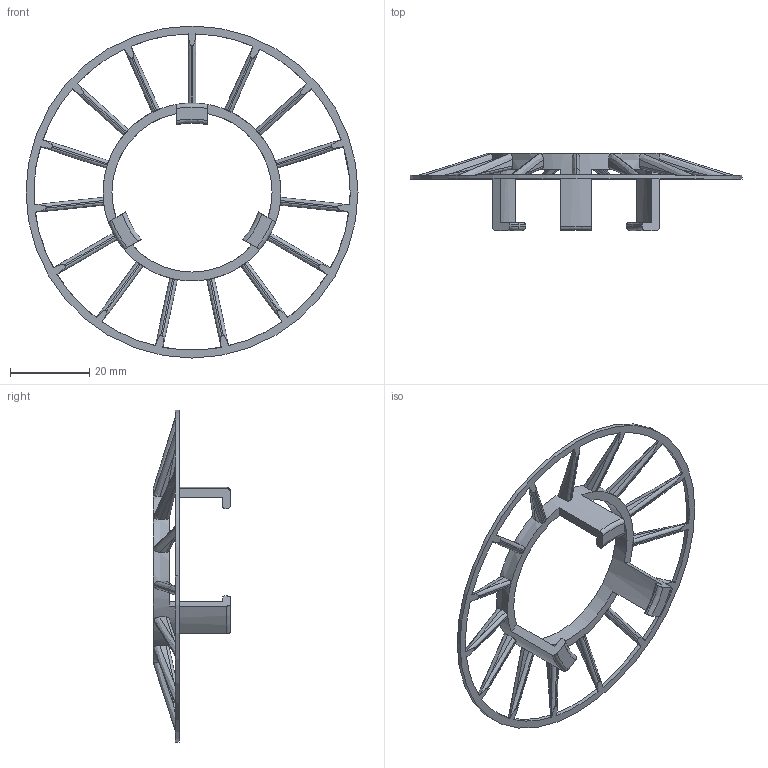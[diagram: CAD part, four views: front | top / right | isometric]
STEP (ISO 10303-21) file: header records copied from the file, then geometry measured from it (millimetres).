
FILE_DESCRIPTION (( 'STEP AP203' ), '1' );
FILE_NAME ('T200网罩（下）.STEP', '2022-04-03T13:08:31', ( '' ), ( '' ), 'SwSTEP 2.0', 'SolidWorks 2020', '' );
FILE_SCHEMA (( 'CONFIG_CONTROL_DESIGN' ));
Length unit declared in the file: millimetre
Products named in the file (1): T200厙欶ㄗ狟ㄘ
Bounding box: 84 x 19.5 x 84 mm (x, y, z)
Volume: 3868.6 mm3; surface area: 6250.5 mm2
Topology: 1 solids, 1 shells, 167 faces, 502 edges, 306 vertices
Faces by surface type: bspline 60, plane 48, cylinder 35, cone 15, torus 9
Entity records: 8458 total; most frequent: CARTESIAN_POINT 4629, ORIENTED_EDGE 996, DIRECTION 535, EDGE_CURVE 498, VERTEX_POINT 304, B_SPLINE_CURVE_WITH_KNOTS 303, AXIS2_PLACEMENT_3D 232, EDGE_LOOP 170
